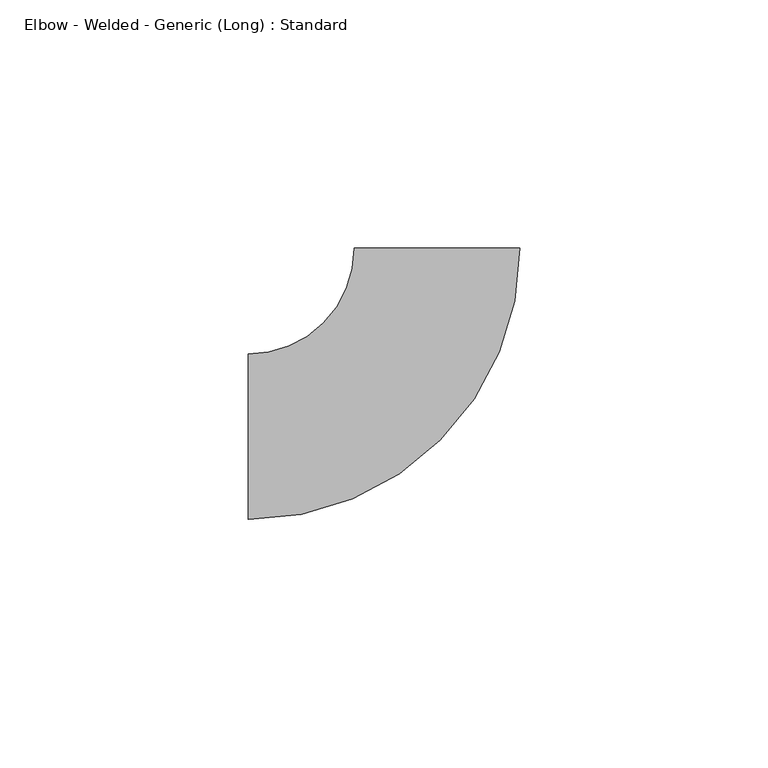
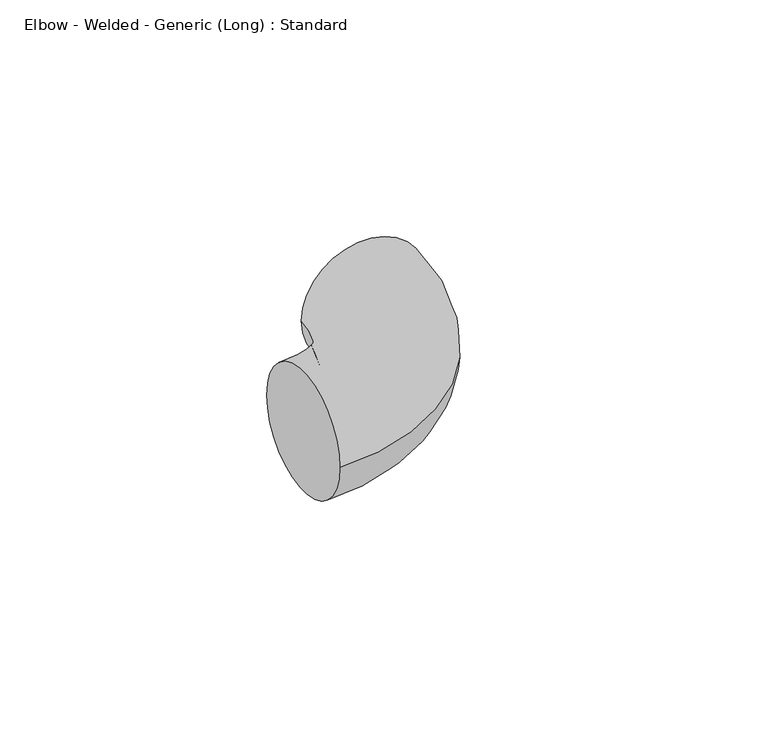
"""IFC4 building model written with IfcOpenShell, lengths in millimetres: pipe fitting geometry, Elbow - Welded - Generic (Long) : Standard."""

from ifc_helpers import new_model, si_unit, point, frame, origin, place, context, project, spatial, circle_curve, ellipse_curve, trimmed, source, transform, mapped, element, save
from ifc_brep_helpers import plane_surface, revolved_surface, advanced_brep


def elbow_welded_generic_long_standard_4174dddf(model_context):
    return source(origin(), model_context, "Body", "AdvancedBrep", [
        advanced_brep(
        [(-38.1, -16.66875, 0.0), (-38.1, 16.66875, 0.0), (16.6677898, 38.1004201, 0.0), (-16.6697102, 38.0995799, 0.0)],
        [
            (0, 1, circle_curve(frame((-38.1, 0.0, 0.0), z_axis=(-1.0, 0.0, 0.0), x_axis=(0.0, 1.0, 0.0)), 16.66875)),
            (1, 0, circle_curve(frame((-38.1, 0.0, 0.0), z_axis=(-1.0, 0.0, 0.0), x_axis=(0.0, 1.0, 0.0)), 16.66875)),
            (2, 3, circle_curve(frame((-0.0009602, 38.1, 0.0), z_axis=(-2.520163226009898e-05, 0.9999999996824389, 0.0), x_axis=(-0.9999999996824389, -2.520163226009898e-05, 0.0)), 16.66875)),
            (3, 2, circle_curve(frame((-0.0009602, 38.1, 0.0), z_axis=(-2.520163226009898e-05, 0.9999999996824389, 0.0), x_axis=(-0.9999999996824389, -2.520163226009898e-05, 0.0)), 16.66875)),
            (3, 1, circle_curve(frame((-38.1, 38.0990398, 0.0), z_axis=(0.0, 0.0, -1.0), x_axis=(0.0, -1.0, 0.0)), 21.4302898)),
            (0, 2, circle_curve(frame((-38.1, 38.0990398, 0.0), z_axis=(0.0, 0.0, 1.0), x_axis=(0.0, -1.0, 0.0)), 54.7677898)),
        ],
        [
            plane_surface(frame((-38.1, 0.0, 0.0), z_axis=(-1.0, 0.0, 0.0), x_axis=(0.0, 0.0, 1.0))),
            plane_surface(frame((-0.0009602, 38.1, 0.0), z_axis=(-2.5201632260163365e-05, 0.9999999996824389, 0.0), x_axis=(0.0, 0.0, 1.0))),
            revolved_surface(trimmed(ellipse_curve(frame((-38.1, 0.0, 0.0), z_axis=(-1.0, 0.0, 0.0), x_axis=(0.0, 1.0, 0.0)), 16.66875, 16.66875), [point((-38.1, -16.66875, 0.0))], [point((-38.1, 16.66875, 0.0))], True, "CARTESIAN"), (-38.1, 38.0990398, 0.0), (0.0, 0.0, 1.0)),
            revolved_surface(trimmed(ellipse_curve(frame((-38.1, 0.0, 0.0), z_axis=(-1.0, 0.0, 0.0), x_axis=(0.0, 1.0, 0.0)), 16.66875, 16.66875), [point((-38.1, 16.66875, 0.0))], [point((-38.1, -16.66875, 0.0))], True, "CARTESIAN"), (-38.1, 38.0990398, 0.0), (0.0, 0.0, 1.0)),
        ],
        [
            (0, [[1, 2]]),
            (1, [[3, 4]]),
            (2, [[5, -1, 6, -4]]),
            (3, [[-6, -2, -5, -3]]),
        ],
    ),
    ])


if __name__ == "__main__":
    model = new_model("IFC4")
    model_context = context("Model", 3, world=origin())
    ifc_project = project(units=[si_unit("LENGTHUNIT", "METRE", prefix="MILLI")], contexts=[model_context])
    site = spatial("IfcSite", under=ifc_project)
    building = spatial("IfcBuilding", under=site)
    placement = place(None, origin())
    elbow_welded_generic_long_standard_shape = elbow_welded_generic_long_standard_4174dddf(model_context)
    element("IfcPipeFitting", 1, ObjectType="Elbow - Welded - Generic (Long) : Standard", at=placement, inside=building, context=model_context, shape_type="MappedRepresentation", body=[
        mapped(elbow_welded_generic_long_standard_shape, transform((0.0, 0.0, 0.0), x_axis=(1.0, 0.0, 0.0), y_axis=(0.0, 1.0, 0.0), z_axis=(0.0, 0.0, 1.0))),
    ])
    save(model, "model.ifc")
